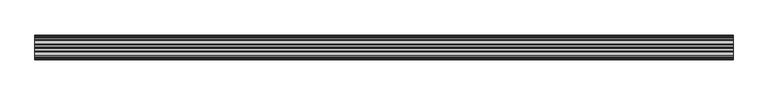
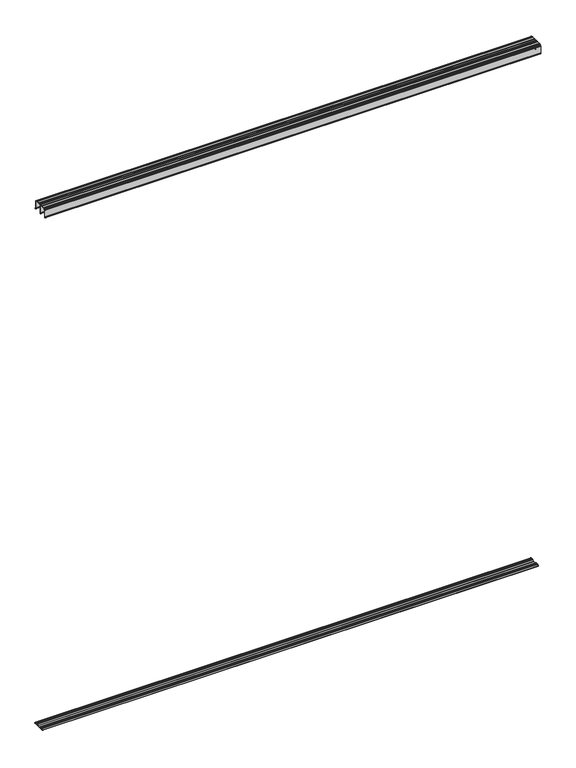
"""IFC4 building model written with IfcOpenShell, lengths in millimetres: proxy geometry, Doors-Other- SOGAL-SOG020022 : Doors-Other- SOGAL-SOG020022."""

from ifc_helpers import new_model, si_unit, point, frame, frame_2d, origin, place, context, project, spatial, polyline, circle_curve, trimmed, segment, composite_curve, outline, extrude, source, transform, mapped, element, save
from ifc_brep_helpers import plane_surface, cylinder_surface, revolved_surface, advanced_brep


def generic_models_de64f809(model_context):
    return source(origin(), model_context, "Body", "SolidModel", [
        advanced_brep(
        [(1215.0000092, 43.0231264, 2711.1679716), (1215.0000092, 40.9915477, 2709.1363928), (1215.0000092, 38.959969, 2711.1679716), (1215.0000092, 30.9999973, 2711.1679716), (1215.0000092, 26.8729963, 2711.1679716), (1215.0000092, 14.8730021, 2711.1679716), (1215.0000092, 10.7460011, 2711.1679716), (1215.0000092, 6.3988083, 2711.1679716), (1215.0000092, 4.9999855, 2709.6679178), (1215.0000092, 4.9999855, 2708.1679003), (1215.0000092, 4.0000102, 2707.167925), (1215.0000092, 2.4999928, 2707.167925), (1215.0000092, 1.0000116, 2705.6679439), (1215.0000092, 1.0000116, 2671.6679117), (1215.0000092, 0.205002, 2670.0499872), (1215.0000092, 0.0, 2669.1679418), (1215.0000092, 0.0, 2667.4179531), (1215.0000092, 2.1113893, 2667.4179531), (1215.0000092, 2.1113893, 2668.6679494), (1215.0000092, 1.3113893, 2668.6679494), (1215.0000092, 1.3113893, 2667.4179531), (1215.0000092, 0.5000058, 2667.4179531), (1215.0000092, 0.5000058, 2669.5165112), (1215.0000092, 1.4999811, 2671.5519336), (1215.0000092, 1.4999811, 2705.6679439), (1215.0000092, 2.4999928, 2706.6679555), (1215.0000092, 4.0000102, 2706.6679555), (1215.0000092, 5.4999913, 2708.1679367), (1215.0000092, 5.4999913, 2709.6679178), (1215.0000092, 6.4448445, 2710.6764227), (1215.0000092, 10.7507969, 2710.6764227), (1215.0000092, 14.696305, 2710.7001949), (1215.0000092, 27.0496934, 2710.7001949), (1215.0000092, 30.9952015, 2710.6764227), (1215.0000092, 38.959969, 2710.6764227), (1215.0000092, 40.4999989, 2709.1363928), (1215.0000092, 40.4999989, 2668.6173711), (1215.0000092, 39.9876209, 2667.2285634), (1215.0000092, 40.9915477, 2664.6739035), (1215.0000092, 41.9954744, 2667.2285634), (1215.0000092, 41.4830965, 2668.6173711), (1215.0000092, 41.4830965, 2709.1363928), (1215.0000092, 43.0231264, 2710.6764227), (1215.0000092, 50.9878939, 2710.6764227), (1215.0000092, 54.933402, 2710.7001949), (1215.0000092, 67.2867904, 2710.7001949), (1215.0000092, 71.2322985, 2710.6764227), (1215.0000092, 75.5382509, 2710.6764227), (1215.0000092, 76.4831041, 2709.6679178), (1215.0000092, 76.4831041, 2708.1679367), (1215.0000092, 77.9830852, 2706.6679555), (1215.0000092, 79.4831026, 2706.6679555), (1215.0000092, 80.4831143, 2705.6679439), (1215.0000092, 80.4831143, 2671.5519336), (1215.0000092, 81.4830896, 2669.5165112), (1215.0000092, 81.4830896, 2667.4179531), (1215.0000092, 80.6717061, 2667.4179531), (1215.0000092, 80.6717061, 2668.6679494), (1215.0000092, 79.8717061, 2668.6679494), (1215.0000092, 79.8717061, 2667.4179531), (1215.0000092, 81.9830954, 2667.4179531), (1215.0000092, 81.9830954, 2669.1679418), (1215.0000092, 81.7780934, 2670.0499872), (1215.0000092, 80.9830837, 2671.6679117), (1215.0000092, 80.9830837, 2705.6679439), (1215.0000092, 79.4831026, 2707.167925), (1215.0000092, 77.9830852, 2707.167925), (1215.0000092, 76.9831099, 2708.1679003), (1215.0000092, 76.9831099, 2709.6679178), (1215.0000092, 75.5842871, 2711.1679716), (1215.0000092, 71.2370943, 2711.1679716), (1215.0000092, 67.1100933, 2711.1679716), (1215.0000092, 55.110099, 2711.1679716), (1215.0000092, 50.983098, 2711.1679716), (1215.0000092, 41.6980443, 2666.8676318), (1215.0000092, 40.2681734, 2666.8676318), (1215.0000092, 40.9915477, 2668.6162721), (-1214.9999908, 43.0231264, 2711.1679716), (-1214.9999908, 50.983098, 2711.1679716), (-1214.9999908, 55.110099, 2711.1679716), (-1214.9999908, 67.1100933, 2711.1679716), (-1214.9999908, 71.2370943, 2711.1679716), (-1214.9999908, 75.5842871, 2711.1679716), (-1214.9999908, 76.9831099, 2709.6679178), (-1214.9999908, 76.9831099, 2708.1679003), (-1214.9999908, 77.9830852, 2707.167925), (-1214.9999908, 79.4831026, 2707.167925), (-1214.9999908, 80.9830837, 2705.6679439), (-1214.9999908, 80.9830837, 2671.6679117), (-1214.9999908, 81.7780934, 2670.0499872), (-1214.9999908, 81.9830954, 2669.1679418), (-1214.9999908, 81.9830954, 2667.4179531), (-1214.9999908, 79.8717061, 2667.4179531), (-1214.9999908, 79.8717061, 2668.6679494), (-1214.9999908, 80.6717061, 2668.6679494), (-1214.9999908, 80.6717061, 2667.4179531), (-1214.9999908, 81.4830896, 2667.4179531), (-1214.9999908, 81.4830896, 2669.5165112), (-1214.9999908, 80.4831143, 2671.5519336), (-1214.9999908, 80.4831143, 2705.6679439), (-1214.9999908, 79.4831026, 2706.6679555), (-1214.9999908, 77.9830852, 2706.6679555), (-1214.9999908, 76.4831041, 2708.1679367), (-1214.9999908, 76.4831041, 2709.6679178), (-1214.9999908, 75.5382509, 2710.6764227), (-1214.9999908, 71.2322985, 2710.6764227), (-1214.9999908, 67.2867904, 2710.7001949), (-1214.9999908, 54.933402, 2710.7001949), (-1214.9999908, 50.9878939, 2710.6764227), (-1214.9999908, 43.0231264, 2710.6764227), (-1214.9999908, 41.4830965, 2709.1363928), (-1214.9999908, 41.4830965, 2668.6173711), (-1214.9999908, 41.9954744, 2667.2285634), (-1214.9999908, 40.9915477, 2664.6739035), (-1214.9999908, 39.9876209, 2667.2285634), (-1214.9999908, 40.4999989, 2668.6173711), (-1214.9999908, 40.4999989, 2709.1363928), (-1214.9999908, 38.959969, 2710.6764227), (-1214.9999908, 30.9952015, 2710.6764227), (-1214.9999908, 27.0496934, 2710.7001949), (-1214.9999908, 14.696305, 2710.7001949), (-1214.9999908, 10.7507969, 2710.6764227), (-1214.9999908, 6.4448445, 2710.6764227), (-1214.9999908, 5.4999913, 2709.6679178), (-1214.9999908, 5.4999913, 2708.1679367), (-1214.9999908, 4.0000102, 2706.6679555), (-1214.9999908, 2.4999928, 2706.6679555), (-1214.9999908, 1.4999811, 2705.6679439), (-1214.9999908, 1.4999811, 2671.5519336), (-1214.9999908, 0.5000058, 2669.5165112), (-1214.9999908, 0.5000058, 2667.4179531), (-1214.9999908, 1.3113893, 2667.4179531), (-1214.9999908, 1.3113893, 2668.6679494), (-1214.9999908, 2.1113893, 2668.6679494), (-1214.9999908, 2.1113893, 2667.4179531), (-1214.9999908, 0.0, 2667.4179531), (-1214.9999908, 0.0, 2669.1679418), (-1214.9999908, 0.205002, 2670.0499872), (-1214.9999908, 1.0000116, 2671.6679117), (-1214.9999908, 1.0000116, 2705.6679439), (-1214.9999908, 2.4999928, 2707.167925), (-1214.9999908, 4.0000102, 2707.167925), (-1214.9999908, 4.9999855, 2708.1679003), (-1214.9999908, 4.9999855, 2709.6679178), (-1214.9999908, 6.3988083, 2711.1679716), (-1214.9999908, 10.7460011, 2711.1679716), (-1214.9999908, 14.8730021, 2711.1679716), (-1214.9999908, 26.8729963, 2711.1679716), (-1214.9999908, 30.9999973, 2711.1679716), (-1214.9999908, 38.959969, 2711.1679716), (-1214.9999908, 40.9915477, 2709.1363928), (-1214.9999908, 41.6980443, 2666.8676318), (-1214.9999908, 40.9915477, 2668.6162721), (-1214.9999908, 40.2681734, 2666.8676318)],
        [
            (0, 1, circle_curve(frame((1215.0000092, 43.0231264, 2709.1363928), z_axis=(1.0, 0.0, 0.0), x_axis=(0.0, 1.0, 0.0)), 2.0315787)),
            (1, 2, circle_curve(frame((1215.0000092, 38.959969, 2709.1363928), z_axis=(1.0, 0.0, 0.0), x_axis=(0.0, 1.0, 0.0)), 2.0315787)),
            (2, 3),
            (3, 4, circle_curve(frame((1215.0000092, 28.9364968, 2707.741466), z_axis=(1.0, 0.0, 0.0), x_axis=(0.0, 1.0, 0.0)), 3.9998718)),
            (4, 5),
            (5, 6, circle_curve(frame((1215.0000092, 12.8095016, 2707.741466), z_axis=(1.0, 0.0, 0.0), x_axis=(0.0, 1.0, 0.0)), 3.9998718)),
            (6, 7),
            (7, 8, circle_curve(frame((1215.0000092, 6.5037023, 2709.6679178), z_axis=(1.0, 0.0, 0.0), x_axis=(0.0, 1.0, 0.0)), 1.5037168)),
            (8, 9),
            (9, 10, circle_curve(frame((1215.0000092, 4.0000102, 2708.1679003), z_axis=(-1.0, 0.0, 0.0), x_axis=(0.0, 1.0, 0.0)), 0.9999753)),
            (10, 11),
            (11, 12, circle_curve(frame((1215.0000092, 2.4999928, 2705.6679439), z_axis=(1.0, 0.0, 0.0), x_axis=(0.0, 1.0, 0.0)), 1.4999811)),
            (12, 13),
            (13, 14),
            (14, 15, circle_curve(frame((1215.0000092, 2.000053, 2669.1679418), z_axis=(1.0, 0.0, 0.0), x_axis=(0.0, 1.0, 0.0)), 2.000053)),
            (15, 16),
            (16, 17, circle_curve(frame((1215.0000092, 1.0556947, 2667.8588098), z_axis=(1.0, 0.0, 0.0), x_axis=(0.0, 1.0, 0.0)), 1.144048)),
            (17, 18),
            (18, 19),
            (19, 20),
            (20, 21),
            (21, 22),
            (22, 23),
            (23, 24),
            (24, 25, circle_curve(frame((1215.0000092, 2.4999928, 2705.6679439), z_axis=(-1.0, 0.0, 0.0), x_axis=(0.0, 1.0, 0.0)), 1.0000116)),
            (25, 26),
            (26, 27, circle_curve(frame((1215.0000092, 4.0000102, 2708.1679367), z_axis=(1.0, 0.0, 0.0), x_axis=(0.0, 1.0, 0.0)), 1.4999811)),
            (27, 28),
            (28, 29, circle_curve(frame((1215.0000092, 6.5106403, 2709.6679178), z_axis=(-1.0, 0.0, 0.0), x_axis=(0.0, 1.0, 0.0)), 1.010649)),
            (29, 30),
            (30, 31, circle_curve(frame((1215.0000092, 12.7427575, 2707.5005547), z_axis=(-1.0, 0.0, 0.0), x_axis=(0.0, 1.0, 0.0)), 3.7488725)),
            (31, 32),
            (32, 33, circle_curve(frame((1215.0000092, 29.0032408, 2707.5005547), z_axis=(-1.0, 0.0, 0.0), x_axis=(0.0, 1.0, 0.0)), 3.7488725)),
            (33, 34),
            (34, 35, circle_curve(frame((1215.0000092, 38.959969, 2709.1363928), z_axis=(-1.0, 0.0, 0.0), x_axis=(0.0, 1.0, 0.0)), 1.5400299)),
            (35, 36),
            (36, 37, circle_curve(frame((1215.0000092, 38.9121255, 2668.4142705), z_axis=(-1.0, 0.0, 0.0), x_axis=(0.0, 1.0, 0.0)), 1.6008097)),
            (37, 38, circle_curve(frame((1215.0000092, 40.97367, 2666.1414688), z_axis=(1.0, 0.0, 0.0), x_axis=(0.0, 1.0, 0.0)), 1.4676742)),
            (38, 39, circle_curve(frame((1215.0000092, 41.0094254, 2666.1414688), z_axis=(1.0, 0.0, 0.0), x_axis=(0.0, 1.0, 0.0)), 1.4676742)),
            (39, 40, circle_curve(frame((1215.0000092, 43.0709699, 2668.4142705), z_axis=(-1.0, 0.0, 0.0), x_axis=(0.0, 1.0, 0.0)), 1.6008097)),
            (40, 41),
            (41, 42, circle_curve(frame((1215.0000092, 43.0231264, 2709.1363928), z_axis=(-1.0, 0.0, 0.0), x_axis=(0.0, 1.0, 0.0)), 1.5400299)),
            (42, 43),
            (43, 44, circle_curve(frame((1215.0000092, 52.9798545, 2707.5005547), z_axis=(-1.0, 0.0, 0.0), x_axis=(0.0, 1.0, 0.0)), 3.7488725)),
            (44, 45),
            (45, 46, circle_curve(frame((1215.0000092, 69.2403378, 2707.5005547), z_axis=(-1.0, 0.0, 0.0), x_axis=(0.0, 1.0, 0.0)), 3.7488725)),
            (46, 47),
            (47, 48, circle_curve(frame((1215.0000092, 75.4724551, 2709.6679178), z_axis=(-1.0, 0.0, 0.0), x_axis=(0.0, 1.0, 0.0)), 1.010649)),
            (48, 49),
            (49, 50, circle_curve(frame((1215.0000092, 77.9830852, 2708.1679367), z_axis=(1.0, 0.0, 0.0), x_axis=(0.0, 1.0, 0.0)), 1.4999811)),
            (50, 51),
            (51, 52, circle_curve(frame((1215.0000092, 79.4831026, 2705.6679439), z_axis=(-1.0, 0.0, 0.0), x_axis=(0.0, 1.0, 0.0)), 1.0000116)),
            (52, 53),
            (53, 54),
            (54, 55),
            (55, 56),
            (56, 57),
            (57, 58),
            (58, 59),
            (59, 60, circle_curve(frame((1215.0000092, 80.9274007, 2667.8588098), z_axis=(1.0, 0.0, 0.0), x_axis=(0.0, 1.0, 0.0)), 1.144048)),
            (60, 61),
            (61, 62, circle_curve(frame((1215.0000092, 79.9830424, 2669.1679418), z_axis=(1.0, 0.0, 0.0), x_axis=(0.0, 1.0, 0.0)), 2.000053)),
            (62, 63),
            (63, 64),
            (64, 65, circle_curve(frame((1215.0000092, 79.4831026, 2705.6679439), z_axis=(1.0, 0.0, 0.0), x_axis=(0.0, 1.0, 0.0)), 1.4999811)),
            (65, 66),
            (66, 67, circle_curve(frame((1215.0000092, 77.9830852, 2708.1679003), z_axis=(-1.0, 0.0, 0.0), x_axis=(0.0, 1.0, 0.0)), 0.9999753)),
            (67, 68),
            (68, 69, circle_curve(frame((1215.0000092, 75.4793931, 2709.6679178), z_axis=(1.0, 0.0, 0.0), x_axis=(0.0, 1.0, 0.0)), 1.5037168)),
            (69, 70),
            (70, 71, circle_curve(frame((1215.0000092, 69.1735938, 2707.741466), z_axis=(1.0, 0.0, 0.0), x_axis=(0.0, 1.0, 0.0)), 3.9998718)),
            (71, 72),
            (72, 73, circle_curve(frame((1215.0000092, 53.0465985, 2707.741466), z_axis=(1.0, 0.0, 0.0), x_axis=(0.0, 1.0, 0.0)), 3.9998718)),
            (73, 0),
            (74, 75, circle_curve(frame((1215.0000092, 40.9831089, 2666.1799102), z_axis=(-1.0, 0.0, 0.0), x_axis=(0.0, 1.0, 0.0)), 0.9920149)),
            (75, 76, circle_curve(frame((1215.0000092, 38.4005422, 2668.6641721), z_axis=(1.0, 0.0, 0.0), x_axis=(0.0, 1.0, 0.0)), 2.5914482)),
            (76, 74, circle_curve(frame((1215.0000092, 43.3376029, 2668.5470982), z_axis=(1.0, 0.0, 0.0), x_axis=(0.0, 1.0, 0.0)), 2.3470748)),
            (77, 78),
            (78, 79, circle_curve(frame((-1214.9999908, 53.0465985, 2707.741466), z_axis=(-1.0, 0.0, 0.0), x_axis=(0.0, 1.0, 0.0)), 3.9998718)),
            (79, 80),
            (80, 81, circle_curve(frame((-1214.9999908, 69.1735938, 2707.741466), z_axis=(-1.0, 0.0, 0.0), x_axis=(0.0, 1.0, 0.0)), 3.9998718)),
            (81, 82),
            (82, 83, circle_curve(frame((-1214.9999908, 75.4793931, 2709.6679178), z_axis=(-1.0, 0.0, 0.0), x_axis=(0.0, 1.0, 0.0)), 1.5037168)),
            (83, 84),
            (84, 85, circle_curve(frame((-1214.9999908, 77.9830852, 2708.1679003), z_axis=(1.0, 0.0, 0.0), x_axis=(0.0, 1.0, 0.0)), 0.9999753)),
            (85, 86),
            (86, 87, circle_curve(frame((-1214.9999908, 79.4831026, 2705.6679439), z_axis=(-1.0, 0.0, 0.0), x_axis=(0.0, 1.0, 0.0)), 1.4999811)),
            (87, 88),
            (88, 89),
            (89, 90, circle_curve(frame((-1214.9999908, 79.9830424, 2669.1679418), z_axis=(-1.0, 0.0, 0.0), x_axis=(0.0, 1.0, 0.0)), 2.000053)),
            (90, 91),
            (91, 92, circle_curve(frame((-1214.9999908, 80.9274007, 2667.8588098), z_axis=(-1.0, 0.0, 0.0), x_axis=(0.0, 1.0, 0.0)), 1.144048)),
            (92, 93),
            (93, 94),
            (94, 95),
            (95, 96),
            (96, 97),
            (97, 98),
            (98, 99),
            (99, 100, circle_curve(frame((-1214.9999908, 79.4831026, 2705.6679439), z_axis=(1.0, 0.0, 0.0), x_axis=(0.0, 1.0, 0.0)), 1.0000116)),
            (100, 101),
            (101, 102, circle_curve(frame((-1214.9999908, 77.9830852, 2708.1679367), z_axis=(-1.0, 0.0, 0.0), x_axis=(0.0, 1.0, 0.0)), 1.4999811)),
            (102, 103),
            (103, 104, circle_curve(frame((-1214.9999908, 75.4724551, 2709.6679178), z_axis=(1.0, 0.0, 0.0), x_axis=(0.0, 1.0, 0.0)), 1.010649)),
            (104, 105),
            (105, 106, circle_curve(frame((-1214.9999908, 69.2403378, 2707.5005547), z_axis=(1.0, 0.0, 0.0), x_axis=(0.0, 1.0, 0.0)), 3.7488725)),
            (106, 107),
            (107, 108, circle_curve(frame((-1214.9999908, 52.9798545, 2707.5005547), z_axis=(1.0, 0.0, 0.0), x_axis=(0.0, 1.0, 0.0)), 3.7488725)),
            (108, 109),
            (109, 110, circle_curve(frame((-1214.9999908, 43.0231264, 2709.1363928), z_axis=(1.0, 0.0, 0.0), x_axis=(0.0, 1.0, 0.0)), 1.5400299)),
            (110, 111),
            (111, 112, circle_curve(frame((-1214.9999908, 43.0709699, 2668.4142705), z_axis=(1.0, 0.0, 0.0), x_axis=(0.0, 1.0, 0.0)), 1.6008097)),
            (112, 113, circle_curve(frame((-1214.9999908, 41.0094254, 2666.1414688), z_axis=(-1.0, 0.0, 0.0), x_axis=(0.0, 1.0, 0.0)), 1.4676742)),
            (113, 114, circle_curve(frame((-1214.9999908, 40.97367, 2666.1414688), z_axis=(-1.0, 0.0, 0.0), x_axis=(0.0, 1.0, 0.0)), 1.4676742)),
            (114, 115, circle_curve(frame((-1214.9999908, 38.9121255, 2668.4142705), z_axis=(1.0, 0.0, 0.0), x_axis=(0.0, 1.0, 0.0)), 1.6008097)),
            (115, 116),
            (116, 117, circle_curve(frame((-1214.9999908, 38.959969, 2709.1363928), z_axis=(1.0, 0.0, 0.0), x_axis=(0.0, 1.0, 0.0)), 1.5400299)),
            (117, 118),
            (118, 119, circle_curve(frame((-1214.9999908, 29.0032408, 2707.5005547), z_axis=(1.0, 0.0, 0.0), x_axis=(0.0, 1.0, 0.0)), 3.7488725)),
            (119, 120),
            (120, 121, circle_curve(frame((-1214.9999908, 12.7427575, 2707.5005547), z_axis=(1.0, 0.0, 0.0), x_axis=(0.0, 1.0, 0.0)), 3.7488725)),
            (121, 122),
            (122, 123, circle_curve(frame((-1214.9999908, 6.5106403, 2709.6679178), z_axis=(1.0, 0.0, 0.0), x_axis=(0.0, 1.0, 0.0)), 1.010649)),
            (123, 124),
            (124, 125, circle_curve(frame((-1214.9999908, 4.0000102, 2708.1679367), z_axis=(-1.0, 0.0, 0.0), x_axis=(0.0, 1.0, 0.0)), 1.4999811)),
            (125, 126),
            (126, 127, circle_curve(frame((-1214.9999908, 2.4999928, 2705.6679439), z_axis=(1.0, 0.0, 0.0), x_axis=(0.0, 1.0, 0.0)), 1.0000116)),
            (127, 128),
            (128, 129),
            (129, 130),
            (130, 131),
            (131, 132),
            (132, 133),
            (133, 134),
            (134, 135, circle_curve(frame((-1214.9999908, 1.0556947, 2667.8588098), z_axis=(-1.0, 0.0, 0.0), x_axis=(0.0, 1.0, 0.0)), 1.144048)),
            (135, 136),
            (136, 137, circle_curve(frame((-1214.9999908, 2.000053, 2669.1679418), z_axis=(-1.0, 0.0, 0.0), x_axis=(0.0, 1.0, 0.0)), 2.000053)),
            (137, 138),
            (138, 139),
            (139, 140, circle_curve(frame((-1214.9999908, 2.4999928, 2705.6679439), z_axis=(-1.0, 0.0, 0.0), x_axis=(0.0, 1.0, 0.0)), 1.4999811)),
            (140, 141),
            (141, 142, circle_curve(frame((-1214.9999908, 4.0000102, 2708.1679003), z_axis=(1.0, 0.0, 0.0), x_axis=(0.0, 1.0, 0.0)), 0.9999753)),
            (142, 143),
            (143, 144, circle_curve(frame((-1214.9999908, 6.5037023, 2709.6679178), z_axis=(-1.0, 0.0, 0.0), x_axis=(0.0, 1.0, 0.0)), 1.5037168)),
            (144, 145),
            (145, 146, circle_curve(frame((-1214.9999908, 12.8095016, 2707.741466), z_axis=(-1.0, 0.0, 0.0), x_axis=(0.0, 1.0, 0.0)), 3.9998718)),
            (146, 147),
            (147, 148, circle_curve(frame((-1214.9999908, 28.9364968, 2707.741466), z_axis=(-1.0, 0.0, 0.0), x_axis=(0.0, 1.0, 0.0)), 3.9998718)),
            (148, 149),
            (149, 150, circle_curve(frame((-1214.9999908, 38.959969, 2709.1363928), z_axis=(-1.0, 0.0, 0.0), x_axis=(0.0, 1.0, 0.0)), 2.0315787)),
            (150, 77, circle_curve(frame((-1214.9999908, 43.0231264, 2709.1363928), z_axis=(-1.0, 0.0, 0.0), x_axis=(0.0, 1.0, 0.0)), 2.0315787)),
            (151, 152, circle_curve(frame((-1214.9999908, 43.3376029, 2668.5470982), z_axis=(-1.0, 0.0, 0.0), x_axis=(0.0, 1.0, 0.0)), 2.3470748)),
            (152, 153, circle_curve(frame((-1214.9999908, 38.4005422, 2668.6641721), z_axis=(-1.0, 0.0, 0.0), x_axis=(0.0, 1.0, 0.0)), 2.5914482)),
            (153, 151, circle_curve(frame((-1214.9999908, 40.9831089, 2666.1799102), z_axis=(1.0, 0.0, 0.0), x_axis=(0.0, 1.0, 0.0)), 0.9920149)),
            (0, 77),
            (150, 1),
            (149, 2),
            (148, 3),
            (147, 4),
            (146, 5),
            (145, 6),
            (144, 7),
            (143, 8),
            (142, 9),
            (141, 10),
            (140, 11),
            (139, 12),
            (138, 13),
            (137, 14),
            (136, 15),
            (135, 16),
            (134, 17),
            (133, 18),
            (132, 19),
            (131, 20),
            (130, 21),
            (129, 22),
            (128, 23),
            (127, 24),
            (126, 25),
            (125, 26),
            (124, 27),
            (123, 28),
            (122, 29),
            (121, 30),
            (120, 31),
            (119, 32),
            (118, 33),
            (117, 34),
            (116, 35),
            (115, 36),
            (114, 37),
            (113, 38),
            (112, 39),
            (111, 40),
            (110, 41),
            (109, 42),
            (108, 43),
            (107, 44),
            (106, 45),
            (105, 46),
            (104, 47),
            (103, 48),
            (102, 49),
            (101, 50),
            (100, 51),
            (99, 52),
            (98, 53),
            (97, 54),
            (96, 55),
            (95, 56),
            (94, 57),
            (93, 58),
            (92, 59),
            (91, 60),
            (90, 61),
            (89, 62),
            (88, 63),
            (87, 64),
            (86, 65),
            (85, 66),
            (84, 67),
            (83, 68),
            (82, 69),
            (81, 70),
            (80, 71),
            (79, 72),
            (78, 73),
            (74, 151),
            (153, 75),
            (152, 76),
        ],
        [
            plane_surface(frame((1215.0000092, 45.0547052, 2709.1363928), z_axis=(1.0, 0.0, 0.0), x_axis=(0.0, 0.0, 1.0))),
            plane_surface(frame((-1214.9999908, 45.0547052, 2709.1363928), z_axis=(-1.0, 0.0, 0.0), x_axis=(0.0, 0.0, -1.0))),
            cylinder_surface(frame((-1214.9999908, 43.0231264, 2709.1363928), z_axis=(1.0, 0.0, 0.0), x_axis=(0.0, 1.0, 0.0)), 2.0315787),
            cylinder_surface(frame((-1214.9999908, 38.959969, 2709.1363928), z_axis=(1.0, 0.0, 0.0), x_axis=(0.0, 1.0, 0.0)), 2.0315787),
            plane_surface(frame((1215.0000092, 38.959969, 2711.1679716), z_axis=(0.0, 0.0, 1.0), x_axis=(-1.0, 0.0, 0.0))),
            cylinder_surface(frame((-1214.9999908, 28.9364968, 2707.741466), z_axis=(1.0, 0.0, 0.0), x_axis=(0.0, 1.0, 0.0)), 3.9998718),
            plane_surface(frame((1215.0000092, 26.8729963, 2711.1679716), z_axis=(0.0, 0.0, 1.0), x_axis=(-1.0, 0.0, 0.0))),
            cylinder_surface(frame((-1214.9999908, 12.8095016, 2707.741466), z_axis=(1.0, 0.0, 0.0), x_axis=(0.0, 1.0, 0.0)), 3.9998718),
            plane_surface(frame((1215.0000092, 10.7460011, 2711.1679716), z_axis=(0.0, 0.0, 1.0), x_axis=(-1.0, 0.0, 0.0))),
            cylinder_surface(frame((-1214.9999908, 6.5037023, 2709.6679178), z_axis=(1.0, 0.0, 0.0), x_axis=(0.0, 1.0, 0.0)), 1.5037168),
            plane_surface(frame((1215.0000092, 4.9999855, 2709.6679178), z_axis=(0.0, -1.0, 0.0), x_axis=(-1.0, 0.0, 0.0))),
            revolved_surface(polyline([(-1214.9999908, 4.9999855, 2708.1679003), (1215.0000092, 4.9999855, 2708.1679003)]), (-1214.9999908, 4.0000102, 2708.1679003), (-1.0, 0.0, 0.0)),
            plane_surface(frame((1215.0000092, 4.0000102, 2707.167925), z_axis=(0.0, 0.0, 1.0), x_axis=(-1.0, 0.0, 0.0))),
            cylinder_surface(frame((-1214.9999908, 2.4999928, 2705.6679439), z_axis=(1.0, 0.0, 0.0), x_axis=(0.0, 1.0, 0.0)), 1.4999811),
            plane_surface(frame((1215.0000092, 1.0000116, 2705.6679439), z_axis=(0.0, -1.0, 0.0), x_axis=(-1.0, 0.0, 0.0))),
            plane_surface(frame((1215.0000092, 1.0000116, 2671.6679117), z_axis=(0.0, -0.8975017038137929, 0.44101098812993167), x_axis=(-1.0, 0.0, 0.0))),
            cylinder_surface(frame((-1214.9999908, 2.000053, 2669.1679418), z_axis=(1.0, 0.0, 0.0), x_axis=(0.0, 1.0, 0.0)), 2.000053),
            plane_surface(frame((1215.0000092, 0.0, 2669.1679418), z_axis=(0.0, -1.0, 0.0), x_axis=(-1.0, 0.0, 0.0))),
            cylinder_surface(frame((-1214.9999908, 1.0556947, 2667.8588098), z_axis=(1.0, 0.0, 0.0), x_axis=(0.0, 1.0, 0.0)), 1.144048),
            plane_surface(frame((1215.0000092, 2.1113893, 2667.4179531), z_axis=(0.0, 1.0, 0.0), x_axis=(-1.0, 0.0, 0.0))),
            plane_surface(frame((1215.0000092, 2.1113893, 2668.6679494), z_axis=(0.0, 0.0, 1.0), x_axis=(-1.0, 0.0, 0.0))),
            plane_surface(frame((1215.0000092, 1.3113893, 2668.6679494), z_axis=(0.0, -1.0, 0.0), x_axis=(-1.0, 0.0, 0.0))),
            plane_surface(frame((1215.0000092, 1.3113893, 2667.4179531), z_axis=(0.0, 0.0, 1.0), x_axis=(-1.0, 0.0, 0.0))),
            plane_surface(frame((1215.0000092, 0.5000058, 2667.4179531), z_axis=(0.0, 1.0, 0.0), x_axis=(-1.0, 0.0, 0.0))),
            plane_surface(frame((1215.0000092, 0.5000058, 2669.5165112), z_axis=(0.0, 0.8975336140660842, -0.4409460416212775), x_axis=(-1.0, 0.0, 0.0))),
            plane_surface(frame((1215.0000092, 1.4999811, 2671.5519336), z_axis=(0.0, 1.0, -1.9235379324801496e-12), x_axis=(-1.0, 0.0, 0.0))),
            revolved_surface(polyline([(-1214.9999908, 3.5000044, 2705.6679439), (1215.0000092, 3.5000044, 2705.6679439)]), (-1214.9999908, 2.4999928, 2705.6679439), (-1.0, 0.0, 0.0)),
            plane_surface(frame((1215.0000092, 2.4999928, 2706.6679555), z_axis=(0.0, 0.0, -1.0), x_axis=(-1.0, 0.0, 0.0))),
            cylinder_surface(frame((-1214.9999908, 4.0000102, 2708.1679367), z_axis=(1.0, 0.0, 0.0), x_axis=(0.0, 1.0, 0.0)), 1.4999811),
            plane_surface(frame((1215.0000092, 5.4999913, 2708.1679367), z_axis=(0.0, 1.0, 0.0), x_axis=(-1.0, 0.0, 0.0))),
            revolved_surface(polyline([(-1214.9999908, 7.5212893, 2709.6679178), (1215.0000092, 7.5212893, 2709.6679178)]), (-1214.9999908, 6.5106403, 2709.6679178), (-1.0, 0.0, 0.0)),
            plane_surface(frame((1215.0000092, 6.4448445, 2710.6764227), z_axis=(0.0, 0.0, -1.0), x_axis=(-1.0, 0.0, 0.0))),
            revolved_surface(polyline([(-1214.9999908, 16.49163, 2707.5005547), (1215.0000092, 16.49163, 2707.5005547)]), (-1214.9999908, 12.7427575, 2707.5005547), (-1.0, 0.0, 0.0)),
            plane_surface(frame((1215.0000092, 14.696305, 2710.7001949), z_axis=(0.0, 0.0, -1.0), x_axis=(-1.0, 0.0, 0.0))),
            revolved_surface(polyline([(-1214.9999908, 32.7521133, 2707.5005547), (1215.0000092, 32.7521133, 2707.5005547)]), (-1214.9999908, 29.0032408, 2707.5005547), (-1.0, 0.0, 0.0)),
            plane_surface(frame((1215.0000092, 30.9952015, 2710.6764227), z_axis=(0.0, 0.0, -1.0), x_axis=(-1.0, 0.0, 0.0))),
            revolved_surface(polyline([(-1214.9999908, 40.4999989, 2709.1363928), (1215.0000092, 40.4999989, 2709.1363928)]), (-1214.9999908, 38.959969, 2709.1363928), (-1.0, 0.0, 0.0)),
            plane_surface(frame((1215.0000092, 40.4999989, 2709.1363928), z_axis=(0.0, -1.0, 0.0), x_axis=(-1.0, 0.0, 0.0))),
            revolved_surface(polyline([(-1214.9999908, 40.5129352, 2668.4142705), (1215.0000092, 40.5129352, 2668.4142705)]), (-1214.9999908, 38.9121255, 2668.4142705), (-1.0, 0.0, 0.0)),
            cylinder_surface(frame((-1214.9999908, 40.97367, 2666.1414688), z_axis=(1.0, 0.0, 0.0), x_axis=(0.0, 1.0, 0.0)), 1.4676742),
            cylinder_surface(frame((-1214.9999908, 41.0094254, 2666.1414688), z_axis=(1.0, 0.0, 0.0), x_axis=(0.0, 1.0, 0.0)), 1.4676742),
            revolved_surface(polyline([(-1214.9999908, 44.6717796, 2668.4142705), (1215.0000092, 44.6717796, 2668.4142705)]), (-1214.9999908, 43.0709699, 2668.4142705), (-1.0, 0.0, 0.0)),
            plane_surface(frame((1215.0000092, 41.4830965, 2668.6173711), z_axis=(0.0, 1.0, 0.0), x_axis=(-1.0, 0.0, 0.0))),
            revolved_surface(polyline([(-1214.9999908, 44.5631563, 2709.1363928), (1215.0000092, 44.5631563, 2709.1363928)]), (-1214.9999908, 43.0231264, 2709.1363928), (-1.0, 0.0, 0.0)),
            plane_surface(frame((1215.0000092, 43.0231264, 2710.6764227), z_axis=(0.0, 0.0, -1.0), x_axis=(-1.0, 0.0, 0.0))),
            revolved_surface(polyline([(-1214.9999908, 56.728727, 2707.5005547), (1215.0000092, 56.728727, 2707.5005547)]), (-1214.9999908, 52.9798545, 2707.5005547), (-1.0, 0.0, 0.0)),
            plane_surface(frame((1215.0000092, 54.933402, 2710.7001949), z_axis=(0.0, 0.0, -1.0), x_axis=(-1.0, 0.0, 0.0))),
            revolved_surface(polyline([(-1214.9999908, 72.98921030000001, 2707.5005547), (1215.0000092, 72.98921030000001, 2707.5005547)]), (-1214.9999908, 69.2403378, 2707.5005547), (-1.0, 0.0, 0.0)),
            plane_surface(frame((1215.0000092, 71.2322985, 2710.6764227), z_axis=(0.0, 0.0, -1.0), x_axis=(-1.0, 0.0, 0.0))),
            revolved_surface(polyline([(-1214.9999908, 76.4831041, 2709.6679178), (1215.0000092, 76.4831041, 2709.6679178)]), (-1214.9999908, 75.4724551, 2709.6679178), (-1.0, 0.0, 0.0)),
            plane_surface(frame((1215.0000092, 76.4831041, 2709.6679178), z_axis=(0.0, -1.0, 0.0), x_axis=(-1.0, 0.0, 0.0))),
            cylinder_surface(frame((-1214.9999908, 77.9830852, 2708.1679367), z_axis=(1.0, 0.0, 0.0), x_axis=(0.0, 1.0, 0.0)), 1.4999811),
            plane_surface(frame((1215.0000092, 77.9830852, 2706.6679555), z_axis=(0.0, 0.0, -1.0), x_axis=(-1.0, 0.0, 0.0))),
            revolved_surface(polyline([(-1214.9999908, 80.48311419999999, 2705.6679439), (1215.0000092, 80.48311419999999, 2705.6679439)]), (-1214.9999908, 79.4831026, 2705.6679439), (-1.0, 0.0, 0.0)),
            plane_surface(frame((1215.0000092, 80.4831143, 2705.6679439), z_axis=(0.0, -1.0, 0.0), x_axis=(-1.0, 0.0, 0.0))),
            plane_surface(frame((1215.0000092, 80.4831143, 2671.5519336), z_axis=(0.0, -0.8975336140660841, -0.4409460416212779), x_axis=(-1.0, 0.0, 0.0))),
            plane_surface(frame((1215.0000092, 81.4830896, 2669.5165112), z_axis=(0.0, -1.0, 0.0), x_axis=(-1.0, 0.0, 0.0))),
            plane_surface(frame((1215.0000092, 81.4830896, 2667.4179531), z_axis=(0.0, 0.0, 1.0), x_axis=(-1.0, 0.0, 0.0))),
            plane_surface(frame((1215.0000092, 80.6717061, 2667.4179531), z_axis=(0.0, 1.0, 0.0), x_axis=(-1.0, 0.0, 0.0))),
            plane_surface(frame((1215.0000092, 80.6717061, 2668.6679494), z_axis=(0.0, 0.0, 1.0), x_axis=(-1.0, 0.0, 0.0))),
            plane_surface(frame((1215.0000092, 79.8717061, 2668.6679494), z_axis=(0.0, -1.0, 0.0), x_axis=(-1.0, 0.0, 0.0))),
            cylinder_surface(frame((-1214.9999908, 80.9274007, 2667.8588098), z_axis=(1.0, 0.0, 0.0), x_axis=(0.0, 1.0, 0.0)), 1.144048),
            plane_surface(frame((1215.0000092, 81.9830954, 2667.4179531), z_axis=(0.0, 1.0, -1.1258989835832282e-10), x_axis=(-1.0, 0.0, 0.0))),
            cylinder_surface(frame((-1214.9999908, 79.9830424, 2669.1679418), z_axis=(1.0, 0.0, 0.0), x_axis=(0.0, 1.0, 0.0)), 2.000053),
            plane_surface(frame((1215.0000092, 81.7780934, 2670.0499872), z_axis=(0.0, 0.8975017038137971, 0.4410109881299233), x_axis=(-1.0, 0.0, 0.0))),
            plane_surface(frame((1215.0000092, 80.9830837, 2671.6679117), z_axis=(0.0, 1.0, 1.929104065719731e-12), x_axis=(-1.0, 0.0, 0.0))),
            cylinder_surface(frame((-1214.9999908, 79.4831026, 2705.6679439), z_axis=(1.0, 0.0, 0.0), x_axis=(0.0, 1.0, 0.0)), 1.4999811),
            plane_surface(frame((1215.0000092, 79.4831026, 2707.167925), z_axis=(0.0, 0.0, 1.0), x_axis=(-1.0, 0.0, 0.0))),
            revolved_surface(polyline([(-1214.9999908, 78.98306050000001, 2708.1679003), (1215.0000092, 78.98306050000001, 2708.1679003)]), (-1214.9999908, 77.9830852, 2708.1679003), (-1.0, 0.0, 0.0)),
            plane_surface(frame((1215.0000092, 76.9831099, 2708.1679003), z_axis=(0.0, 1.0, 0.0), x_axis=(-1.0, 0.0, 0.0))),
            cylinder_surface(frame((-1214.9999908, 75.4793931, 2709.6679178), z_axis=(1.0, 0.0, 0.0), x_axis=(0.0, 1.0, 0.0)), 1.5037168),
            plane_surface(frame((1215.0000092, 75.5842871, 2711.1679716), z_axis=(0.0, 0.0, 1.0), x_axis=(-1.0, 0.0, 0.0))),
            cylinder_surface(frame((-1214.9999908, 69.1735938, 2707.741466), z_axis=(1.0, 0.0, 0.0), x_axis=(0.0, 1.0, 0.0)), 3.9998718),
            plane_surface(frame((1215.0000092, 67.1100933, 2711.1679716), z_axis=(0.0, 0.0, 1.0), x_axis=(-1.0, 0.0, 0.0))),
            cylinder_surface(frame((-1214.9999908, 53.0465985, 2707.741466), z_axis=(1.0, 0.0, 0.0), x_axis=(0.0, 1.0, 0.0)), 3.9998718),
            plane_surface(frame((1215.0000092, 50.983098, 2711.1679716), z_axis=(0.0, 0.0, 1.0), x_axis=(-1.0, 0.0, 0.0))),
            revolved_surface(polyline([(-1214.9999908, 41.9751238, 2666.1799102), (1215.0000092, 41.9751238, 2666.1799102)]), (9.2e-06, 40.9831089, 2666.1799102), (-1.0, 0.0, 0.0)),
            cylinder_surface(frame((9.2e-06, 38.4005422, 2668.6641721), z_axis=(1.0, 0.0, 0.0), x_axis=(0.0, 1.0, 0.0)), 2.5914482),
            cylinder_surface(frame((9.2e-06, 43.3376029, 2668.5470982), z_axis=(1.0, 0.0, 0.0), x_axis=(0.0, 1.0, 0.0)), 2.3470748),
        ],
        [
            (0, [[1, 2, 3, 4, 5, 6, 7, 8, 9, 10, 11, 12, 13, 14, 15, 16, 17, 18, 19, 20, 21, 22, 23, 24, 25, 26, 27, 28, 29, 30, 31, 32, 33, 34, 35, 36, 37, 38, 39, 40, 41, 42, 43, 44, 45, 46, 47, 48, 49, 50, 51, 52, 53, 54, 55, 56, 57, 58, 59, 60, 61, 62, 63, 64, 65, 66, 67, 68, 69, 70, 71, 72, 73, 74], [75, 76, 77]]),
            (1, [[78, 79, 80, 81, 82, 83, 84, 85, 86, 87, 88, 89, 90, 91, 92, 93, 94, 95, 96, 97, 98, 99, 100, 101, 102, 103, 104, 105, 106, 107, 108, 109, 110, 111, 112, 113, 114, 115, 116, 117, 118, 119, 120, 121, 122, 123, 124, 125, 126, 127, 128, 129, 130, 131, 132, 133, 134, 135, 136, 137, 138, 139, 140, 141, 142, 143, 144, 145, 146, 147, 148, 149, 150, 151], [152, 153, 154]]),
            (2, [[-1, 155, -151, 156]]),
            (3, [[-2, -156, -150, 157]]),
            (4, [[-3, -157, -149, 158]]),
            (5, [[-4, -158, -148, 159]]),
            (6, [[-5, -159, -147, 160]]),
            (7, [[-6, -160, -146, 161]]),
            (8, [[-7, -161, -145, 162]]),
            (9, [[-8, -162, -144, 163]]),
            (10, [[-9, -163, -143, 164]]),
            (11, [[-10, -164, -142, 165]]),
            (12, [[-11, -165, -141, 166]]),
            (13, [[-12, -166, -140, 167]]),
            (14, [[-13, -167, -139, 168]]),
            (15, [[-14, -168, -138, 169]]),
            (16, [[-15, -169, -137, 170]]),
            (17, [[-16, -170, -136, 171]]),
            (18, [[-17, -171, -135, 172]]),
            (19, [[-18, -172, -134, 173]]),
            (20, [[-19, -173, -133, 174]]),
            (21, [[-20, -174, -132, 175]]),
            (22, [[-21, -175, -131, 176]]),
            (23, [[-22, -176, -130, 177]]),
            (24, [[-23, -177, -129, 178]]),
            (25, [[-24, -178, -128, 179]]),
            (26, [[-25, -179, -127, 180]]),
            (27, [[-26, -180, -126, 181]]),
            (28, [[-27, -181, -125, 182]]),
            (29, [[-28, -182, -124, 183]]),
            (30, [[-29, -183, -123, 184]]),
            (31, [[-30, -184, -122, 185]]),
            (32, [[-31, -185, -121, 186]]),
            (33, [[-32, -186, -120, 187]]),
            (34, [[-33, -187, -119, 188]]),
            (35, [[-34, -188, -118, 189]]),
            (36, [[-35, -189, -117, 190]]),
            (37, [[-36, -190, -116, 191]]),
            (38, [[-37, -191, -115, 192]]),
            (39, [[-38, -192, -114, 193]]),
            (40, [[-39, -193, -113, 194]]),
            (41, [[-40, -194, -112, 195]]),
            (42, [[-41, -195, -111, 196]]),
            (43, [[-42, -196, -110, 197]]),
            (44, [[-43, -197, -109, 198]]),
            (45, [[-44, -198, -108, 199]]),
            (46, [[-45, -199, -107, 200]]),
            (47, [[-46, -200, -106, 201]]),
            (48, [[-47, -201, -105, 202]]),
            (49, [[-48, -202, -104, 203]]),
            (50, [[-49, -203, -103, 204]]),
            (51, [[-50, -204, -102, 205]]),
            (52, [[-51, -205, -101, 206]]),
            (53, [[-52, -206, -100, 207]]),
            (54, [[-53, -207, -99, 208]]),
            (55, [[-54, -208, -98, 209]]),
            (56, [[-55, -209, -97, 210]]),
            (57, [[-56, -210, -96, 211]]),
            (58, [[-57, -211, -95, 212]]),
            (59, [[-58, -212, -94, 213]]),
            (60, [[-59, -213, -93, 214]]),
            (61, [[-60, -214, -92, 215]]),
            (62, [[-61, -215, -91, 216]]),
            (63, [[-62, -216, -90, 217]]),
            (64, [[-63, -217, -89, 218]]),
            (65, [[-64, -218, -88, 219]]),
            (66, [[-65, -219, -87, 220]]),
            (67, [[-66, -220, -86, 221]]),
            (68, [[-67, -221, -85, 222]]),
            (69, [[-68, -222, -84, 223]]),
            (70, [[-69, -223, -83, 224]]),
            (71, [[-70, -224, -82, 225]]),
            (72, [[-71, -225, -81, 226]]),
            (73, [[-72, -226, -80, 227]]),
            (74, [[-73, -227, -79, 228]]),
            (75, [[-74, -228, -78, -155]]),
            (76, [[-75, 229, -154, 230]]),
            (77, [[-76, -230, -153, 231]]),
            (78, [[-77, -231, -152, -229]]),
        ],
    ),
        extrude(outline(composite_curve([segment(polyline([(79.0831296, 0.5001148), (79.0831296, 2.8469193)]), True, "CONTINUOUS"), segment(trimmed(circle_curve(frame_2d((77.5831979, 2.8469193)), 1.4999316), [point((79.0831296, 2.8469193))], [point((78.6438393, 3.9075015))], True, "CARTESIAN"), True, "CONTINUOUS"), segment(polyline([(78.6438393, 3.9075015), (76.6878483, 5.8636015)]), True, "CONTINUOUS"), segment(trimmed(circle_curve(frame_2d((77.3243109, 6.5000286)), 0.9000689), [point((76.6878483, 5.8636015))], [point((76.8742528, 7.2794975))], False, "CARTESIAN"), True, "CONTINUOUS"), segment(polyline([(76.8742528, 7.2794975), (77.7170066, 7.7660957)]), True, "CONTINUOUS"), segment(trimmed(circle_curve(frame_2d((78.2170476, 6.90006)), 1.0000294), [point((77.7170066, 7.7660957))], [point((78.5591157, 7.8397665))], False, "CARTESIAN"), True, "CONTINUOUS"), segment(polyline([(78.5591157, 7.8397665), (81.0645671, 6.927742)]), True, "CONTINUOUS"), segment(trimmed(circle_curve(frame_2d((80.3802016, 5.0476997)), 2.0007288), [point((81.0645671, 6.927742))], [point((81.9128261, 6.3337704))], False, "CARTESIAN"), True, "CONTINUOUS"), segment(polyline([(81.9128261, 6.3337704), (85.8491468, 1.6428141)]), True, "CONTINUOUS"), segment(trimmed(circle_curve(frame_2d((85.0831076, 1.0000079)), 1.0000079), [point((85.8491468, 1.6428141))], [point((85.0831076, 0.0))], False, "CARTESIAN"), True, "CONTINUOUS"), segment(polyline([(85.0831076, 0.0), (24.6976678, 0.0), (23.0831512, 0.0)]), True, "CONTINUOUS"), segment(trimmed(circle_curve(frame_2d((23.0831512, 1.0000079)), 1.0000079), [point((23.0831512, 0.0))], [point((22.317112, 1.6428141))], False, "CARTESIAN"), True, "CONTINUOUS"), segment(polyline([(22.317112, 1.6428141), (26.2534327, 6.3337704)]), True, "CONTINUOUS"), segment(trimmed(circle_curve(frame_2d((27.7860572, 5.0476997)), 2.0007288), [point((26.2534327, 6.3337704))], [point((27.1016917, 6.9277421))], False, "CARTESIAN"), True, "CONTINUOUS"), segment(polyline([(27.1016917, 6.9277421), (29.6071431, 7.8397665)]), True, "CONTINUOUS"), segment(trimmed(circle_curve(frame_2d((29.9492113, 6.90006)), 1.0000294), [point((29.6071431, 7.8397665))], [point((30.4492522, 7.7660957))], False, "CARTESIAN"), True, "CONTINUOUS"), segment(polyline([(30.4492522, 7.7660957), (31.292006, 7.2794975)]), True, "CONTINUOUS"), segment(trimmed(circle_curve(frame_2d((30.8419479, 6.5000286)), 0.9000689), [point((31.292006, 7.2794975))], [point((31.4784105, 5.8636015))], False, "CARTESIAN"), True, "CONTINUOUS"), segment(polyline([(31.4784105, 5.8636015), (29.5224195, 3.9075015)]), True, "CONTINUOUS"), segment(trimmed(circle_curve(frame_2d((30.5830609, 2.8469193)), 1.4999316), [point((29.5224195, 3.9075015))], [point((29.0831292, 2.8469193))], True, "CARTESIAN"), True, "CONTINUOUS"), segment(polyline([(29.0831292, 2.8469193), (29.0831292, 0.5001148), (39.0831729, 0.5001148), (39.0831729, 2.8469193)]), True, "CONTINUOUS"), segment(trimmed(circle_curve(frame_2d((37.5832412, 2.8469193)), 1.4999316), [point((39.0831729, 2.8469193))], [point((38.6438826, 3.9075015))], True, "CARTESIAN"), True, "CONTINUOUS"), segment(polyline([(38.6438826, 3.9075015), (36.6878916, 5.8636015)]), True, "CONTINUOUS"), segment(trimmed(circle_curve(frame_2d((37.3243542, 6.5000286)), 0.9000689), [point((36.6878916, 5.8636015))], [point((36.8742961, 7.2794975))], False, "CARTESIAN"), True, "CONTINUOUS"), segment(polyline([(36.8742961, 7.2794975), (37.7170499, 7.7660957)]), True, "CONTINUOUS"), segment(trimmed(circle_curve(frame_2d((38.2170908, 6.90006)), 1.0000294), [point((37.7170499, 7.7660957))], [point((38.559159, 7.8397665))], False, "CARTESIAN"), True, "CONTINUOUS"), segment(polyline([(38.559159, 7.8397665), (41.0646104, 6.927742)]), True, "CONTINUOUS"), segment(trimmed(circle_curve(frame_2d((40.3802449, 5.0476997)), 2.0007288), [point((41.0646104, 6.927742))], [point((41.9128694, 6.3337704))], False, "CARTESIAN"), True, "CONTINUOUS"), segment(polyline([(41.9128694, 6.3337704), (46.305701, 1.0987851)]), True, "CONTINUOUS"), segment(trimmed(circle_curve(frame_2d((47.7161489, 2.4609349)), 1.9608201), [point((46.305701, 1.0987851))], [point((47.7161489, 0.5001148))], True, "CARTESIAN"), True, "CONTINUOUS"), segment(polyline([(47.7161489, 0.5001148), (60.45011, 0.5001148)]), True, "CONTINUOUS"), segment(trimmed(circle_curve(frame_2d((60.45011, 2.4609349)), 1.9608201), [point((60.45011, 0.5001148))], [point((61.8605578, 1.0987851))], True, "CARTESIAN"), True, "CONTINUOUS"), segment(polyline([(61.8605578, 1.0987851), (66.2533895, 6.3337704)]), True, "CONTINUOUS"), segment(trimmed(circle_curve(frame_2d((67.7860139, 5.0476997)), 2.0007288), [point((66.2533895, 6.3337704))], [point((67.1016484, 6.9277421))], False, "CARTESIAN"), True, "CONTINUOUS"), segment(polyline([(67.1016484, 6.9277421), (69.6070998, 7.8397665)]), True, "CONTINUOUS"), segment(trimmed(circle_curve(frame_2d((69.949168, 6.90006)), 1.0000294), [point((69.6070998, 7.8397665))], [point((70.4492089, 7.7660957))], False, "CARTESIAN"), True, "CONTINUOUS"), segment(polyline([(70.4492089, 7.7660957), (71.2919627, 7.2794975)]), True, "CONTINUOUS"), segment(trimmed(circle_curve(frame_2d((70.8419046, 6.5000286)), 0.9000689), [point((71.2919627, 7.2794975))], [point((71.4783672, 5.8636015))], False, "CARTESIAN"), True, "CONTINUOUS"), segment(polyline([(71.4783672, 5.8636015), (69.5223762, 3.9075015)]), True, "CONTINUOUS"), segment(trimmed(circle_curve(frame_2d((70.5830176, 2.8469193)), 1.4999316), [point((69.5223762, 3.9075015))], [point((69.0830859, 2.8469193))], True, "CARTESIAN"), True, "CONTINUOUS"), segment(polyline([(69.0830859, 2.8469193), (69.0830859, 0.5001148), (79.0831296, 0.5001148)]), True, "CONTINUOUS")], self_intersect=False)), frame((-1215.0, 0.0, 0.0), z_axis=(1.0, 0.0, 0.0), x_axis=(0.0, 1.0, 0.0)), (0.0, 0.0, 1.0), 2430.0),
    ])


if __name__ == "__main__":
    model = new_model("IFC4")
    model_context = context("Model", 3, world=origin())
    ifc_project = project(units=[si_unit("LENGTHUNIT", "METRE", prefix="MILLI")], contexts=[model_context])
    site = spatial("IfcSite", under=ifc_project)
    building = spatial("IfcBuilding", under=site)
    placement = place(None, origin())
    generic_models_shape = generic_models_de64f809(model_context)
    element("IfcBuildingElementProxy", 1, Name="Doors-Other- SOGAL-SOG020022 : Doors-Other- SOGAL-SOG020022", ObjectType="Doors-Other- SOGAL-SOG020022 : Doors-Other- SOGAL-SOG020022", at=placement, inside=building, context=model_context, shape_type="MappedRepresentation", body=[
        mapped(generic_models_shape, transform((0.0, 0.0, 0.0), x_axis=(1.0, 0.0, 0.0), y_axis=(0.0, 1.0, 0.0), z_axis=(0.0, 0.0, 1.0))),
    ])
    save(model, "model.ifc")
